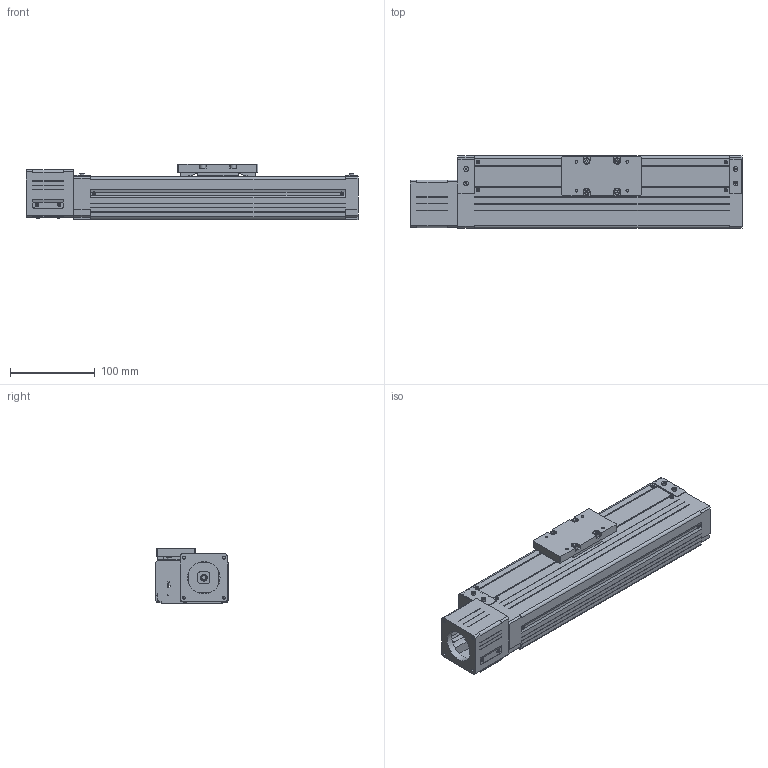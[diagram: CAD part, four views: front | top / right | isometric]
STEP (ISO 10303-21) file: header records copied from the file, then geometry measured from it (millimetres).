
FILE_DESCRIPTION((''),'2;1');
FILE_NAME('D:\製品 (図面)\カタログ用3D\SU部品\SU85×65\ダウンロード用\SU85×65-MB56\SU85×65-200-MB56.stp','2011-07-01T17:18:05',('Tsuchiya'),(''),'Autodesk Inventor 10','Autodesk Inventor 10','');
FILE_SCHEMA(('AUTOMOTIVE_DESIGN { 1 0 10303 214 1 1 1 1 }'));
Length unit declared in the file: millimetre
Products named in the file (3): SU85×65-200-MB56; SU85×65-200-MB561; SU85×65-200-MB562
Assembly tree (2 placements, depth 2):
  SU85×65-200-MB56
    SU85×65-200-MB561
    SU85×65-200-MB562
Bounding box: 391 x 85 x 65 mm (x, y, z)
Volume: 793952 mm3; surface area: 254639.7 mm2
Topology: 8 solids, 8 shells, 843 faces, 2216 edges, 1434 vertices
Faces by surface type: plane 713, cylinder 98, cone 16, torus 12, bspline 4
Full cylindrical faces by diameter (mm): 3.242 x8, 4 x4, 4.134 x8, 4.5 x4, 5.5 x4, 6 x1, 7 x4, 8 x1, 11.5 x1, 12 x1, 13 x1, 38.1 x1, 43 x1
Entity records: 25742 total; most frequent: CARTESIAN_POINT 5175, ORIENTED_EDGE 4232, DIRECTION 4032, EDGE_CURVE 2116, VECTOR 1712, LINE 1712, VERTEX_POINT 1405, AXIS2_PLACEMENT_3D 1160
